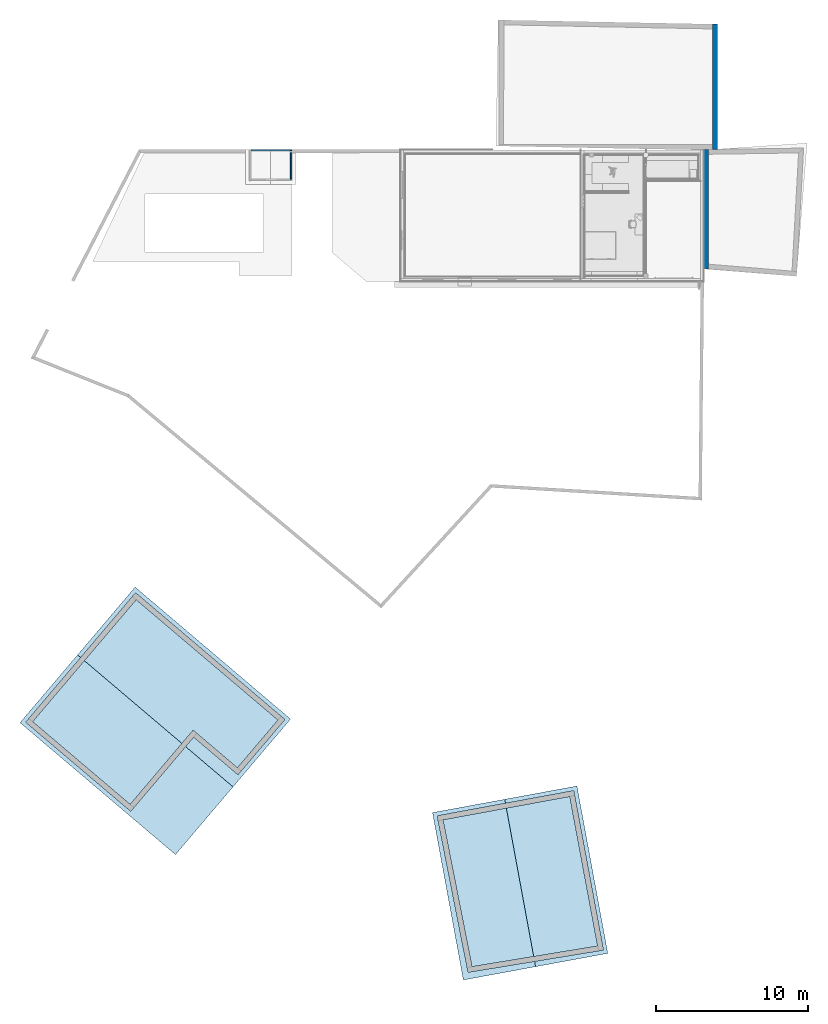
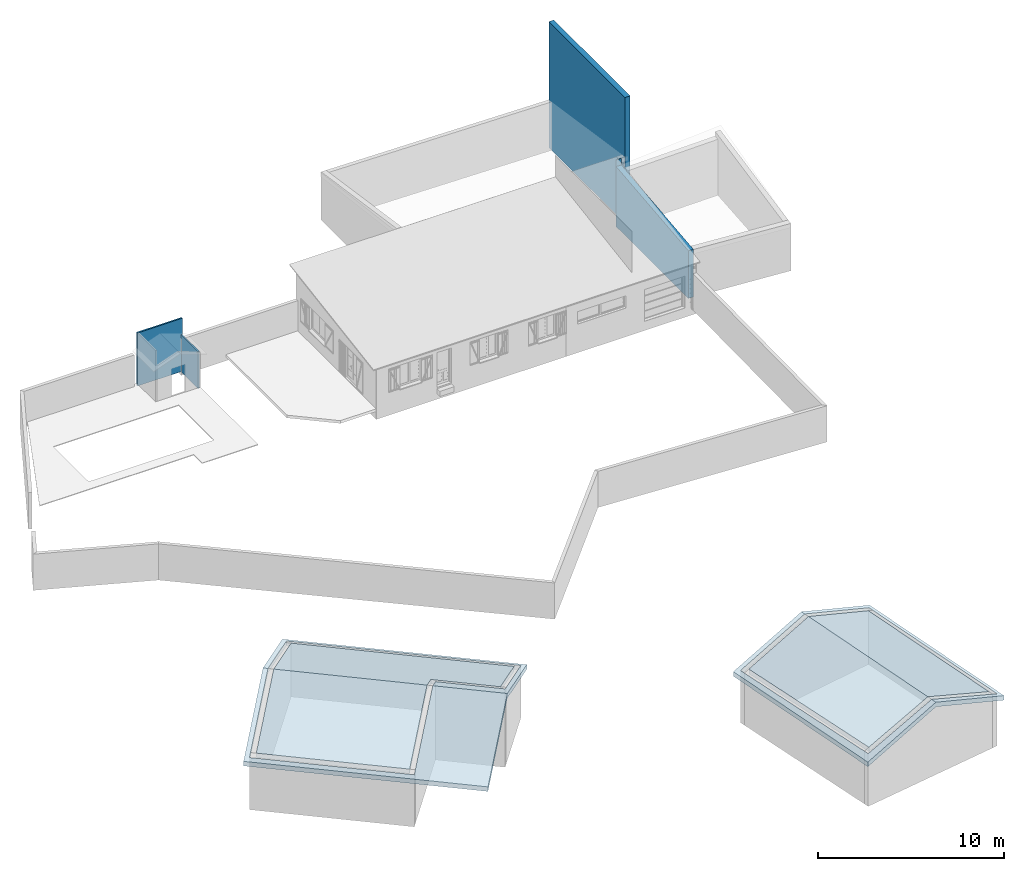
# One storey, part 3 of 24: 4 walls, 2 roofs.
"""IFC2X3 building model written with IfcOpenShell, lengths in metres."""

from ifc_helpers import new_model, entity, si_unit, converted_unit, derived_unit, money_unit, direction, frame, origin_with_axes, place, context, subcontext, project, spatial, polyline, outline, extrude, boolean, faceted_brep, material, type_object, element, save


model = new_model("IFC2X3")

# Units and contexts
model_context = context("Model", 3, precision=1e-05, world=origin_with_axes(), true_north=direction((0.0, 1.0)))
body_context = subcontext(model_context, "Body", "Model", "MODEL_VIEW")
ifc_project = project(units=[si_unit("LENGTHUNIT", "METRE"), si_unit("AREAUNIT", "SQUARE_METRE"), si_unit("VOLUMEUNIT", "CUBIC_METRE"), converted_unit("PLANEANGLEUNIT", "DEGREE", entity("IfcPlaneAngleMeasure", 0.0174532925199), si_unit("PLANEANGLEUNIT", "RADIAN"), dimensions=[0, 0, 0, 0, 0, 0, 0]), si_unit("SOLIDANGLEUNIT", "STERADIAN"), money_unit("CHF"), converted_unit("TIMEUNIT", "Year", entity("IfcTimeMeasure", 31556926.0), si_unit("TIMEUNIT", "SECOND"), dimensions=[0, 0, 1, 0, 0, 0, 0]), si_unit("MASSUNIT", "GRAM", prefix="KILO"), si_unit("THERMODYNAMICTEMPERATUREUNIT", "DEGREE_CELSIUS"), si_unit("LUMINOUSINTENSITYUNIT", "LUMEN"), si_unit("ENERGYUNIT", "JOULE", prefix="MEGA"), derived_unit("THERMALCONDUCTANCEUNIT", [(si_unit("POWERUNIT", "WATT"), 1), (si_unit("LENGTHUNIT", "METRE"), -1), (si_unit("THERMODYNAMICTEMPERATUREUNIT", "KELVIN"), -1)]), derived_unit("SPECIFICHEATCAPACITYUNIT", [(si_unit("ENERGYUNIT", "JOULE"), 1), (si_unit("MASSUNIT", "GRAM", prefix="KILO"), -1), (si_unit("THERMODYNAMICTEMPERATUREUNIT", "KELVIN"), -1)]), derived_unit("MASSDENSITYUNIT", [(si_unit("MASSUNIT", "GRAM", prefix="KILO"), 1), (si_unit("VOLUMEUNIT", "CUBIC_METRE"), -1)])], contexts=[model_context])

# Site, building, storey
site_placement = place(None, origin_with_axes())
site = spatial("IfcSite", under=ifc_project, at=site_placement, Name="Site", CompositionType="ELEMENT")
building_placement = place(site_placement, origin_with_axes())
building = spatial("IfcBuilding", under=site, at=building_placement, Name="Bâtiment", CompositionType="ELEMENT")
storey_placement = place(building_placement, origin_with_axes())
storey = spatial("IfcBuildingStorey", under=building, at=storey_placement, Name="Rez-de-chaussée", CompositionType="ELEMENT", Elevation=0.0)

# Walls
ifc_material_1 = material(Name="Béton")
wall_type_1 = type_object("IfcWallType", Name="Béton 100", PredefinedType="ELEMENTEDWALL")
wall_1_placement = place(storey_placement, frame((4.44823112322, 16.4025213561, -0.13), z_axis=(0.0, 0.0, 1.0), x_axis=(-0.999999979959, -0.000200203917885, 0.0)))
element("IfcWall", 1, at=wall_1_placement, inside=storey, type_object=wall_type_1, material=ifc_material_1, Name="MUR_EXT-010", ObjectType="ELEMENTEDWALL", context=body_context, shape_type="CSG", body=[
    boolean("DIFFERENCE", extrude(outline(polyline([(0.0, 0.0), (2.79175270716, 0.0), (2.79175270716, 0.1), (0.0, 0.1), (0.0, 0.0)])), origin_with_axes(), (0.0, 0.0, 1.0), 3.49290883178), faceted_brep([(2.69175270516, 0.1, 2.4540959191), (1.39574595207, 0.1, 2.92580379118), (0.100006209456, 0.1, 2.45419310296), (0.100006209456, 0.1, 0.0), (0.0, 0.1, 0.0), (0.0, 0.1, 3.49290883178), (2.79175270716, 0.1, 3.49290883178), (2.79175270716, 0.1, 0.0), (2.69175270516, 0.1, 0.0), (2.69173293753, 0.00125417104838, 2.45409591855), (1.39572607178, 0.00069981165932, 2.92580379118), (0.100000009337, 0.000147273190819, 2.4541981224), (0.100000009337, 0.000147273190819, 0.0), (2.69173293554, 0.00124420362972, 0.0), (2.79175270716, 0.0, 0.0), (0.0, 0.0, 0.0), (1.39572607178, 0.00069981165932, 0.0), (0.0, 0.0, 3.49290883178), (2.79175270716, 0.0, 3.49290883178), (2.69173293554, 0.00124420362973, 2.50409591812), (1.39572607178, 0.00069981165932, 2.97580379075)], [[[0, 1, 2, 3, 4, 5, 6, 7, 8]], [[1, 0, 9, 10]], [[2, 1, 10, 11]], [[3, 2, 11, 12]], [[13, 8, 7, 14, 15, 4, 3, 12, 16]], [[5, 4, 15, 17]], [[5, 17, 18, 6]], [[18, 14, 7, 6]], [[8, 13, 19, 9, 0]], [[10, 9, 19, 20]], [[16, 12, 11, 10]], [[17, 15, 14, 18]], [[13, 16, 10, 20, 19]]])),
])
wall_2_placement = place(storey_placement, frame((4.44851191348, 14.3694488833, -0.13), z_axis=(0.0, 0.0, 1.0), x_axis=(-0.000138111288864, 0.999999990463, 0.0)))
element("IfcWall", 2, at=wall_2_placement, inside=storey, type_object=wall_type_1, material=ifc_material_1, Name="MUR_EXT-009", ObjectType="ELEMENTEDWALL", context=body_context, shape_type="CSG", body=[
    boolean("DIFFERENCE", boolean("DIFFERENCE", extrude(outline(polyline([(0.0, 0.0), (2.03307249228, 0.0), (2.03307249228, 0.1), (0.0, 0.1), (0.0, 0.0)])), origin_with_axes(), (0.0, 0.0, 1.0), 3.49290883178), faceted_brep([(2.01791510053, 0.0, 0.0), (2.01791510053, 0.0, 2.21277264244), (1.83791506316, 0.0, 2.21277264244), (1.83791506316, 0.0, 0.0), (2.01785065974, 0.1, 0.0), (2.01785065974, 0.1, 2.21277264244), (1.83785062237, 0.1, 2.21277264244), (1.83785062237, 0.1, 0.0)], [[[0, 1, 2, 3]], [[1, 0, 4, 5]], [[2, 1, 5, 6]], [[3, 2, 6, 7]], [[4, 0, 3, 7]], [[5, 4, 7, 6]]])), faceted_brep([(2.03296786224, 0.0, 2.41780110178), (2.03296786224, 0.0, 0.0), (2.03307249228, 0.0, 0.0), (2.03307249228, 0.0, 3.49290883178), (0.0, 0.0, 3.49290883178), (0.0, 0.0, 0.0), (0.0999999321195, 0.0, 0.0), (0.0999999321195, 0.0, 2.41770393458), (2.03291900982, 0.1, 2.4541981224), (2.03291900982, 0.1, 0.0), (2.03307249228, 0.1, 0.0), (2.03307249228, 0.1, 3.49290883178), (0.0, 0.1, 3.49290883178), (0.0, 0.1, 0.0), (0.100013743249, 0.1, 0.0), (0.100013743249, 0.0999999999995, 2.45410095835)], [[[0, 1, 2, 3, 4, 5, 6, 7]], [[1, 0, 8, 9]], [[1, 9, 10, 2]], [[3, 2, 10, 11]], [[12, 4, 3, 11]], [[12, 13, 5, 4]], [[14, 6, 5, 13]], [[7, 6, 14, 15]], [[0, 7, 15, 8]], [[15, 14, 13, 12, 11, 10, 9, 8]]])),
])
ifc_material_2 = material(Name="Volume - Etude")
wall_type_2 = type_object("IfcWallType", Name="Volume - Etude 315", PredefinedType="ELEMENTEDWALL")
wall_3_placement = place(storey_placement, frame((31.4871417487, 16.4079346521, -0.13), z_axis=(0.0, 0.0, 1.0), x_axis=(0.0, -1.0, 0.0)))
element("IfcWall", 3, at=wall_3_placement, inside=storey, type_object=wall_type_2, material=ifc_material_2, Name="MUR_EXT-025", ObjectType="ELEMENTEDWALL", context=body_context, shape_type="CSG", body=[
    boolean("DIFFERENCE", extrude(outline(polyline([(-0.315, 0.0), (7.84133534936, 0.0), (7.84133534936, 0.315), (-0.315, 0.315), (-0.315, 0.0)])), origin_with_axes(), (0.0, 0.0, 1.0), 8.27830126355), faceted_brep([(0.0377816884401, 0.315, 4.10423527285), (0.0377816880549, 0.315, 4.3884006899), (0.0, 0.315, 4.38271481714), (0.0, 0.315, 0.0), (-0.315, 0.315, 0.0), (-0.315, 0.315, 8.27830126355), (7.84133534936, 0.315, 8.27830126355), (7.84133534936, 0.315, 3.12923209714), (0.0377816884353, 0.315, 3.95655251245), (0.0316922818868, 0.0, 4.10423527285), (0.0316922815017, 0.0, 4.3884006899), (0.0, 0.0, 4.3836312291), (0.0, 0.0, 0.0), (-0.315, 0.0, 0.0), (-0.315, 0.0, 8.27830126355), (7.84133534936, 0.0, 8.27830126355), (7.84133534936, 0.315, 0.0), (7.84133534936, 0.0, 0.0), (7.81499401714, 0.0, 3.1301751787), (0.0316922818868, 0.0, 3.95534851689), (7.81499401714, 0.0, 0.0)], [[[0, 1, 2, 3, 4, 5, 6, 7, 8]], [[1, 0, 9, 10]], [[2, 1, 10, 11]], [[3, 2, 11, 12]], [[3, 12, 13, 4]], [[5, 4, 13, 14]], [[5, 14, 15, 6]], [[16, 7, 6, 15, 17]], [[8, 7, 18, 19]], [[0, 8, 19, 9]], [[18, 20, 17, 15, 14, 13, 12, 11, 10, 9, 19]], [[7, 16, 20, 18]], [[20, 16, 17]]])),
])
wall_4_placement = place(storey_placement, frame((32.3691945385, 16.4079346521, -0.13), z_axis=(0.0, 0.0, 1.0), x_axis=(0.00148413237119, 0.999998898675, 0.0)))
element("IfcWall", 4, at=wall_4_placement, inside=storey, type_object=wall_type_2, material=ifc_material_2, Name="MUR_EXT-023", ObjectType="ELEMENTEDWALL", context=body_context, shape_type="CSG", body=[
    boolean("DIFFERENCE", extrude(outline(polyline([(-0.000467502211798, 0.0), (8.22910101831, 0.0), (8.22910101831, 0.315), (-0.000467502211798, 0.315), (-0.000467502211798, 0.0)])), origin_with_axes(), (0.0, 0.0, 1.0), 8.27830126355), faceted_brep([(0.027519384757, 0.0, 0.0), (0.0174703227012, 0.146451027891, 0.0), (8.22347927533, 0.0, 0.0), (0.0275193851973, 0.0, 3.68422581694), (0.0174703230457, 0.14645102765, 3.68232347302), (0.0174703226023, 0.146451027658, 3.96490308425), (0.00628340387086, 0.146650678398, 3.96371582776), (0.00628340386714, 0.146650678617, 4.04002765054), (-0.000217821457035, 0.146766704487, 4.04002765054), (-0.000217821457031, 0.146766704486, 4.0973266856), (8.22347927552, -3.03096214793e-10, 2.85929097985), (8.22910101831, 0.0, 0.0), (8.22910101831, 0.0, 8.27830126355), (-0.000467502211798, 0.0, 8.27830126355), (-0.000467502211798, 0.0, 0.0), (0.00876884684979, 0.0, 0.0), (0.00876884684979, 0.0, 3.96481736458), (0.027519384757, 0.0, 3.96680542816), (0.00343021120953, 0.315, 0.0), (0.00343021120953, 0.315, 4.04002765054), (-0.000467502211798, 0.315, 4.04002765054), (-0.000467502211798, 0.315, 4.381981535), (-0.000217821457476, 0.146766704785, 4.3814921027), (8.22347927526, 0.0, 3.14345639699), (8.22910101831, 0.315, 0.0), (8.22910101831, 0.315, 3.14345639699), (8.22910101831, 0.315, 8.27830126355), (-0.000467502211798, 0.315, 8.27830126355), (-0.000467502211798, 0.315, 0.0)], [[[0, 1, 2]], [[0, 3, 4, 1]], [[2, 1, 4, 5, 6, 7, 8, 9, 10]], [[3, 0, 2, 11, 12, 13, 14, 15, 16, 17]], [[3, 17, 5, 4]], [[17, 16, 6, 5]], [[16, 15, 18, 19, 7, 6]], [[19, 20, 8, 7]], [[20, 21, 22, 9, 8]], [[22, 23, 10, 9]], [[24, 2, 10, 23, 25]], [[2, 24, 11]], [[24, 25, 26, 12, 11]], [[27, 13, 12, 26]], [[21, 20, 28, 14, 13, 27]], [[18, 15, 14, 28]], [[19, 18, 28, 20]], [[21, 25, 23, 22]], [[25, 21, 27, 26]]])),
])

# Roofs
roof_1_placement = place(storey_placement, frame((-4.524137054, -21.0967835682, 3.0), z_axis=(0.0, 0.0, 1.0), x_axis=(1.0, 0.0, 0.0)))
element("IfcRoof", 5, at=roof_1_placement, inside=storey, material=ifc_material_2, Name="TOIT-001", ShapeType="NOTDEFINED", context=body_context, shape_type="Brep", body=[
    faceted_brep([(-4.65664130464, 3.95305241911, 2.32582428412), (-8.05650066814, -0.0519351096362, 0.413716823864), (-1.64946335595, -5.48781039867, 0.414576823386), (1.74771549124, -1.48364676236, 2.32582428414), (-4.65664130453, 3.95305241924, 2.02679032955), (-8.05650066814, -0.0519351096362, 0.114682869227), (-1.25668471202, 7.95815448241, 0.413662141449), (-1.25668471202, 7.95815448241, 0.114628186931), (-1.64946335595, -5.48781039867, 0.115542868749), (1.74771549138, -1.48364676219, 2.02679032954), (2.48273616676, -0.617297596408, 1.61326885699), (2.48273616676, -0.617297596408, 1.91230281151), (2.7228976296, -0.821129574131, 1.91229098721), (5.3909073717, -3.08554658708, 1.91215962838), (8.05805580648, 0.0539483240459, 0.412791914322), (8.05805580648, 0.0539483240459, 0.113757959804), (2.7228976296, -0.821129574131, 1.6132570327), (5.3909073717, -3.08554658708, 1.61312567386)], [[[0, 1, 2, 3]], [[4, 5, 1, 0, 6, 7]], [[5, 8, 2, 1]], [[3, 2, 8, 9, 10, 11]], [[0, 3, 11, 12, 13, 14, 6]], [[9, 8, 5, 4]], [[6, 14, 15, 7]], [[16, 10, 9, 4, 7, 15, 17]], [[10, 16, 12, 11]], [[13, 12, 16, 17]], [[14, 13, 17, 15]]]),
    faceted_brep([(1.98785593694, -1.68750351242, 2.02679032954), (-1.40926560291, -5.69159960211, 0.115575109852), (-1.40926560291, -5.69159960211, 0.414609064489), (1.98785593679, -1.6875035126, 2.32582428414), (2.51910996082, -1.06132863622, 2.02694160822), (2.51910996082, -1.06132863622, 1.7279076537), (-8.50055518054, -0.0882863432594, -2.05178096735e-10), (-1.61305326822, -5.93179866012, 0.000924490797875), (5.10261640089, -4.33164346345, 2.02679032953), (1.32410864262, -8.78267362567, -0.0982719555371), (-8.88112419, -0.119386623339, -0.0982719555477), (-5.10261639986, 4.33164351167, 2.02679032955), (-4.89678174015, 4.15690916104, 2.02679032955), (-8.29669843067, 0.151854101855, 0.114650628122), (-1.61305326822, -5.93179866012, 0.299958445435), (-8.50055518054, -0.0882863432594, 0.299033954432), (-8.29669843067, 0.151854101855, 0.413684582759), (-4.89678174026, 4.15690916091, 2.32582428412), (-5.10261639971, 4.33164351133, 2.32582428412), (-8.88112418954, -0.119386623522, 0.200761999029), (1.32410864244, -8.78267362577, 0.200761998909), (5.10261639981, -4.33164346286, 2.32582428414), (5.42712272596, -3.52944315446, 2.02679843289), (8.88112418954, 0.119386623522, 0.200762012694), (-1.32410864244, 8.78267362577, 0.200762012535), (-1.49686504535, 8.16196422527, 0.413684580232), (-1.29300829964, 8.40210466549, 0.299033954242), (8.26200194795, 0.294012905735, 0.29814127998), (8.50218231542, 0.0902031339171, 0.298118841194), (5.63106885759, -3.28937858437, 1.91214780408), (5.42712272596, -3.52944315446, 1.72776447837), (5.63106885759, -3.28937858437, 1.61311384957), (8.50218231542, 0.0902031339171, -0.000915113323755), (8.26200194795, 0.294012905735, -0.000892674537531), (-1.29300829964, 8.40210466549, -2.75392597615e-10), (-1.49686504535, 8.16196422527, 0.114650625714), (-1.3241086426, 8.78267362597, -0.0982719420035), (8.88112419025, 0.119386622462, -0.098271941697)], [[[0, 1, 2, 3, 4, 5]], [[6, 7, 1, 0, 8, 9, 10, 11, 12, 13]], [[7, 14, 2, 1]], [[14, 15, 16, 17, 18, 19, 20, 21, 3, 2]], [[22, 4, 3, 21, 23, 24, 18, 17, 25, 26, 27, 28, 29]], [[30, 5, 4, 22]], [[8, 0, 5, 30, 31, 32, 33, 34, 35, 12, 11, 36, 37]], [[6, 15, 14, 7]], [[20, 9, 8, 21]], [[19, 10, 9, 20]], [[10, 19, 18, 11]], [[17, 16, 13, 12, 35, 25]], [[6, 13, 16, 15]], [[37, 23, 21, 8]], [[23, 37, 36, 24]], [[24, 36, 11, 18]], [[34, 26, 25, 35]], [[34, 33, 27, 26]], [[32, 28, 27, 33]], [[32, 31, 29, 28]], [[30, 22, 29, 31]]]),
])
roof_2_placement = place(storey_placement, frame((19.4253618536, -31.7381901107, 3.0), z_axis=(0.0, 0.0, 1.0), x_axis=(1.0, 0.0, 0.0)))
element("IfcRoof", 6, at=roof_2_placement, inside=storey, material=ifc_material_2, Name="TOIT-002", ShapeType="NOTDEFINED", context=body_context, shape_type="Brep", body=[
    faceted_brep([(5.09163462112, -4.14081434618, 0.107073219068), (3.26024593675, 5.68618602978, 0.114419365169), (3.26024593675, 5.68618602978, 0.413453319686), (5.09163462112, -4.14081434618, 0.406107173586), (0.890130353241, -4.83045868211, 1.65646366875), (-0.906334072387, 4.91839161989, 1.65646366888), (-5.06838091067, 4.15143255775, 0.415131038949), (-0.906334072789, 4.91839161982, 1.95549762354), (-5.06838091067, 4.15143255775, 0.116097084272), (0.890130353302, -4.8304586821, 1.95549762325), (-3.16522948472, -5.49611454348, 0.46000091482), (-3.16522948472, -5.49611454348, 0.160966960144)], [[[0, 1, 2, 3]], [[4, 5, 1, 0]], [[6, 7, 2, 1, 5, 8]], [[3, 2, 7, 9]], [[4, 0, 3, 9, 10, 11]], [[11, 8, 5, 4]], [[9, 7, 6, 10]], [[10, 6, 8, 11]]]),
    faceted_brep([(-1.01234968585, 5.49370517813, 1.95549762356), (-0.963419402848, 5.22817584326, 1.95549762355), (3.51231997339, 6.05294043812, 0.299033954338), (3.57003079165, 5.7432714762, 0.298802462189), (5.46027137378, -4.39952075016, 0.291220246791), (5.14935873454, -4.45055464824, 0.405875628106), (0.947226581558, -5.14030204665, 1.95549762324), (1.01234976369, -5.49370517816, 1.95549762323), (5.75361839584, -4.62001020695, 0.200762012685), (3.72891899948, 6.36740005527, 0.200762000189), (-5.37818948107, 4.09434274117, 0.300471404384), (-5.43915877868, 4.40341124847, 0.29903395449), (-5.75361839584, 4.62001020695, 0.200761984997), (-3.72891899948, -6.36740005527, 0.200761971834), (-3.41523397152, -5.85636610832, 0.346751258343), (-3.47622985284, -5.54716284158, 0.345313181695), (3.51231997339, 6.05294043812, -1.79655401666e-10), (-5.43915877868, 4.40341124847, -1.8639223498e-10), (-0.963419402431, 5.22817584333, 1.65646366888), (3.57003079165, 5.7432714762, -0.000231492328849), (5.46027137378, -4.39952075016, -0.0078137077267), (5.14935873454, -4.45055464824, 0.106841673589), (0.947226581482, -5.14030204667, 1.65646366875), (-3.41523397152, -5.85636610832, 0.0477173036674), (1.01234976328, -5.49370517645, 1.65646366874), (5.75361839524, -4.62001020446, -0.098271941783), (3.72891899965, 6.36740005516, -0.0982719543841), (-1.01234968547, 5.49370517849, 1.65646366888), (-5.37818948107, 4.09434274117, 0.00143744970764), (-5.75361839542, 4.6200102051, -0.0982719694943), (-3.72891899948, -6.36740005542, -0.0982719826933), (-3.47622985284, -5.54716284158, 0.0462792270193)], [[[0, 1, 2, 3, 4, 5, 6, 7, 8, 9]], [[10, 11, 1, 0, 12, 13, 7, 6, 14, 15]], [[16, 2, 1, 11, 17, 18]], [[16, 19, 3, 2]], [[4, 3, 19, 20]], [[21, 5, 4, 20]], [[6, 5, 21, 22, 23, 14]], [[24, 25, 8, 7]], [[9, 8, 25, 26]], [[0, 9, 26, 27]], [[17, 11, 10, 28]], [[27, 29, 12, 0]], [[13, 12, 29, 30]], [[7, 13, 30, 24]], [[31, 15, 14, 23]], [[31, 28, 10, 15]], [[18, 17, 28, 31, 23, 22, 24, 30, 29, 27]], [[19, 16, 18, 27, 26, 25, 24, 22, 21, 20]]]),
])

save(model, "model.ifc")
